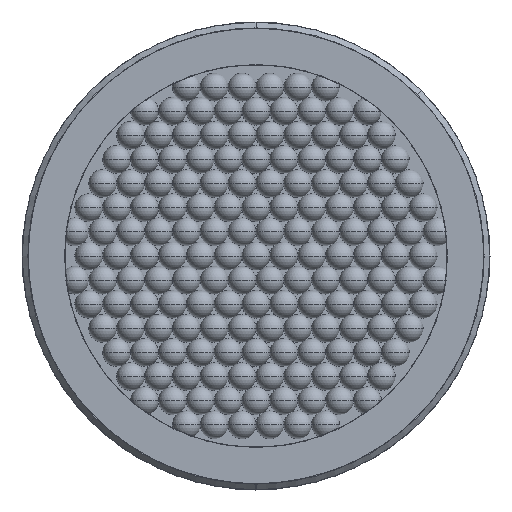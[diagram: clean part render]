
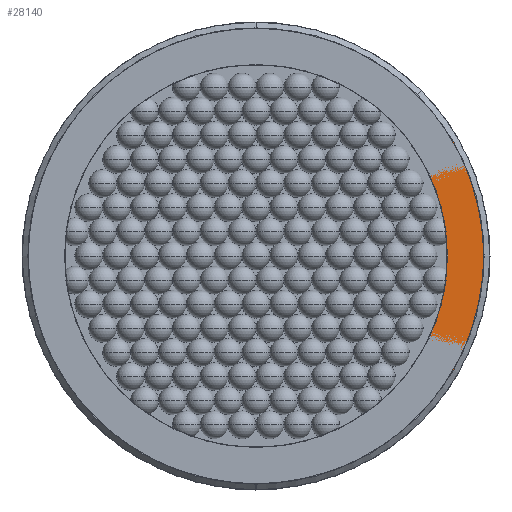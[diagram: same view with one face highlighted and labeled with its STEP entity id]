
A CAD part, front view. The second image highlights one B-rep face of the part: STEP entity #28140.
In plain terms, the highlighted planar face has unit normal (0, -1, 0).
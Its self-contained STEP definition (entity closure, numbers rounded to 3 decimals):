
#676 = ORIENTED_EDGE ( 'NONE', *, *, #33982, .F. ) ;
#1336 = DIRECTION ( 'NONE',  ( 0., 0., -1. ) ) ;
#4537 = EDGE_LOOP ( 'NONE', ( #676, #8313 ) ) ;
#4758 = VERTEX_POINT ( 'NONE', #36493 ) ;
#6036 = AXIS2_PLACEMENT_3D ( 'NONE', #37653, #16307, #41210 ) ;
#6335 = CIRCLE ( 'NONE', #15816, 65.5 ) ;
#7622 = DIRECTION ( 'NONE',  ( 0., -1., 0. ) ) ;
#8313 = ORIENTED_EDGE ( 'NONE', *, *, #42982, .F. ) ;
#9683 = AXIS2_PLACEMENT_3D ( 'NONE', #41852, #20534, #45442 ) ;
#10051 = CIRCLE ( 'NONE', #9683, 78. ) ;
#11577 = EDGE_CURVE ( 'NONE', #23529, #41064, #19190, .T. ) ;
#15550 = ORIENTED_EDGE ( 'NONE', *, *, #24792, .T. ) ;
#15720 = AXIS2_PLACEMENT_3D ( 'NONE', #41415, #20255, #45156 ) ;
#15816 = AXIS2_PLACEMENT_3D ( 'NONE', #43976, #22644, #1336 ) ;
#16307 = DIRECTION ( 'NONE',  ( 0., -1., 0. ) ) ;
#19190 = CIRCLE ( 'NONE', #33112, 78. ) ;
#20255 = DIRECTION ( 'NONE',  ( 0., 1., 0. ) ) ;
#20534 = DIRECTION ( 'NONE',  ( 0., -1., 0. ) ) ;
#20593 = CARTESIAN_POINT ( 'NONE',  ( 0., 1., 78. ) ) ;
#20809 = VERTEX_POINT ( 'NONE', #45896 ) ;
#21481 = FACE_OUTER_BOUND ( 'NONE', #39354, .T. ) ;
#22592 = FACE_BOUND ( 'NONE', #4537, .T. ) ;
#22644 = DIRECTION ( 'NONE',  ( 0., -1., 0. ) ) ;
#23529 = VERTEX_POINT ( 'NONE', #20593 ) ;
#24792 = EDGE_CURVE ( 'NONE', #41064, #23529, #10051, .T. ) ;
#28140 = ADVANCED_FACE ( 'NONE', ( #22592, #21481 ), #30840, .F. ) ;
#28935 = CARTESIAN_POINT ( 'NONE',  ( 0., 1., 0. ) ) ;
#30840 = PLANE ( 'NONE',  #15720 ) ;
#32495 = DIRECTION ( 'NONE',  ( 0., 0., -1. ) ) ;
#33112 = AXIS2_PLACEMENT_3D ( 'NONE', #28935, #7622, #32495 ) ;
#33982 = EDGE_CURVE ( 'NONE', #20809, #4758, #41455, .T. ) ;
#35863 = ORIENTED_EDGE ( 'NONE', *, *, #11577, .T. ) ;
#36493 = CARTESIAN_POINT ( 'NONE',  ( 0., 1., 65.5 ) ) ;
#36498 = CARTESIAN_POINT ( 'NONE',  ( 0., 1., -78. ) ) ;
#37653 = CARTESIAN_POINT ( 'NONE',  ( 0., 1., 0. ) ) ;
#39354 = EDGE_LOOP ( 'NONE', ( #35863, #15550 ) ) ;
#41064 = VERTEX_POINT ( 'NONE', #36498 ) ;
#41210 = DIRECTION ( 'NONE',  ( 0., 0., -1. ) ) ;
#41415 = CARTESIAN_POINT ( 'NONE',  ( -65.5, 1., 0. ) ) ;
#41455 = CIRCLE ( 'NONE', #6036, 65.5 ) ;
#41852 = CARTESIAN_POINT ( 'NONE',  ( 0., 1., 0. ) ) ;
#42982 = EDGE_CURVE ( 'NONE', #4758, #20809, #6335, .T. ) ;
#43976 = CARTESIAN_POINT ( 'NONE',  ( 0., 1., 0. ) ) ;
#45156 = DIRECTION ( 'NONE',  ( 0., 0., 1. ) ) ;
#45442 = DIRECTION ( 'NONE',  ( 0., 0., -1. ) ) ;
#45896 = CARTESIAN_POINT ( 'NONE',  ( 0., 1., -65.5 ) ) ;
